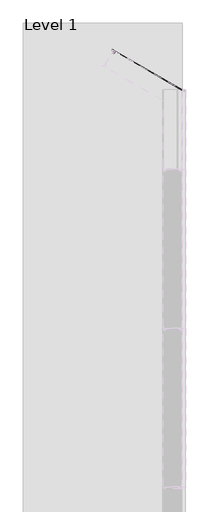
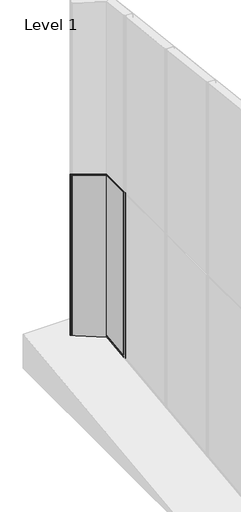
# One storey, part 12 of 16: 1 plate.
"""IFC4 building model written with IfcOpenShell, lengths in millimetres."""

from ifc_helpers import new_model, si_unit, frame, origin, place, context, project, spatial, polyline, circle_curve, ellipse_curve, element, save
from ifc_brep_helpers import plane_surface, cylinder_surface, revolved_surface, advanced_brep

model = new_model("IFC4")

# Units and contexts
model_context = context("Model", 3, world=origin())
ifc_project = project(units=[si_unit("LENGTHUNIT", "METRE", prefix="MILLI")], contexts=[model_context])

# Site, building, storey
site = spatial("IfcSite", under=ifc_project)
building = spatial("IfcBuilding", under=site)
storey = spatial("IfcBuildingStorey", under=building, Name="Level 1", Elevation=0.0)

# Plate
placement = place(None, origin())
element("IfcPlate", 1, ObjectType="TR_C_V_FTV_Corner_Long_B : 120/RAL9006/RAL9002", at=placement, inside=storey, context=model_context, shape_type="AdvancedBrep", body=[
    advanced_brep(
    [(-97.2285384, 7469.8069107, 2980.0), (-101.7094137, 7466.0470099, 2980.0), (-102.4527267, 7461.8314726, 2980.0), (-107.3155057, 7462.2569107, 2980.0), (-107.3155057, 7477.0069107, 2980.0), (-108.2820533, 7479.340363, 2980.0), (-112.6711406, 7483.7294503, 2980.0), (-113.3155057, 7485.2850853, 2980.0), (-113.3155057, 7900.78676, 2980.0), (-114.1155057, 7900.3248798, 2980.0), (-114.1155057, 7485.2850853, 2980.0), (-113.236826, 7483.1637649, 2980.0), (-108.8477387, 7478.7746776, 2980.0), (-108.1155057, 7477.0069107, 2980.0), (-108.1155057, 7462.2569107, 2980.0), (-101.6648805, 7461.6925541, 2980.0), (-100.9215675, 7465.9080913, 2980.0), (-97.2285384, 7469.0069107, 2980.0), (-93.1155057, 7469.0069107, 2980.0), (-93.1155057, 7469.8069107, 2980.0), (-97.2285384, 7469.8069107, 543.0465115), (-101.7094137, 7466.0470099, 542.6093137), (-102.4527267, 7461.8314726, 542.1191349), (-107.3155057, 7462.2569107, 542.1686045), (-107.3155057, 7477.0069107, 543.8837208), (-108.2820533, 7479.340363, 544.1550524), (-112.6711406, 7483.7294503, 544.6654114), (-113.3155057, 7485.2850853, 544.8462992), (-113.3155057, 7900.78676, 593.1604474), (-114.1155057, 7900.3248798, 593.1067404), (-114.1155057, 7485.2850853, 544.8462992), (-113.236826, 7483.1637649, 544.599634), (-108.8477387, 7478.7746776, 544.0892751), (-108.1155057, 7477.0069107, 543.8837208), (-108.1155057, 7462.2569107, 542.1686045), (-101.6648805, 7461.6925541, 542.1029816), (-100.9215675, 7465.9080913, 542.5931604), (-97.2285384, 7469.0069107, 542.9534882), (-93.1155057, 7469.0069107, 542.9534882), (-93.1155057, 7469.8069107, 543.0465115)],
    [
        (0, 1, circle_curve(frame((-97.2285384, 7465.2569107, 2980.0), z_axis=(0.0, 0.0, 1.0), x_axis=(0.0, -1.0, 0.0)), 4.55)),
        (1, 2),
        (2, 3, circle_curve(frame((-104.8655057, 7462.2569107, 2980.0), z_axis=(0.0, 0.0, -1.0), x_axis=(0.0, -1.0, 0.0)), 2.45)),
        (3, 4),
        (4, 5, circle_curve(frame((-110.6155057, 7477.0069107, 2980.0), z_axis=(0.0, 0.0, 1.0), x_axis=(0.0, -1.0, 0.0)), 3.3)),
        (5, 6),
        (6, 7, circle_curve(frame((-111.1155057, 7485.2850853, 2980.0), z_axis=(0.0, 0.0, -1.0), x_axis=(0.0, -1.0, 0.0)), 2.2)),
        (7, 8),
        (8, 9),
        (9, 10),
        (10, 11, circle_curve(frame((-111.1155057, 7485.2850853, 2980.0), z_axis=(0.0, 0.0, 1.0), x_axis=(0.0, -1.0, 0.0)), 3.0)),
        (11, 12),
        (12, 13, circle_curve(frame((-110.6155057, 7477.0069107, 2980.0), z_axis=(0.0, 0.0, -1.0), x_axis=(0.0, -1.0, 0.0)), 2.5)),
        (13, 14),
        (14, 15, circle_curve(frame((-104.8655057, 7462.2569107, 2980.0), z_axis=(0.0, 0.0, 1.0), x_axis=(0.0, -1.0, 0.0)), 3.25)),
        (15, 16),
        (16, 17, circle_curve(frame((-97.2285384, 7465.2569107, 2980.0), z_axis=(0.0, 0.0, -1.0), x_axis=(0.0, -1.0, 0.0)), 3.75)),
        (17, 18),
        (18, 19),
        (19, 0),
        (0, 20),
        (20, 21, ellipse_curve(frame((-97.2285384, 7465.2569107, 542.5174417), z_axis=(0.0, -0.11550085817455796, 0.9933073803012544), x_axis=(0.0, 0.9933073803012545, 0.11550085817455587)), 4.5806566, 4.55)),
        (21, 1),
        (21, 22),
        (22, 2),
        (22, 23, ellipse_curve(frame((-104.8655057, 7462.2569107, 542.1686045), z_axis=(0.0, 0.11550085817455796, -0.9933073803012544), x_axis=(0.0, -0.9933073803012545, -0.11550085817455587)), 2.4665074, 2.45)),
        (23, 3),
        (23, 24),
        (24, 4),
        (24, 25, ellipse_curve(frame((-110.6155057, 7477.0069107, 543.8837208), z_axis=(0.0, -0.11550085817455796, 0.9933073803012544), x_axis=(0.0, 0.9933073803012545, 0.11550085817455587)), 3.3222345, 3.3)),
        (25, 5),
        (25, 26),
        (26, 6),
        (26, 27, ellipse_curve(frame((-111.1155057, 7485.2850853, 544.8462992), z_axis=(0.0, 0.11550085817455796, -0.9933073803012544), x_axis=(0.0, -0.9933073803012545, -0.11550085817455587)), 2.214823, 2.2)),
        (27, 7),
        (27, 28),
        (28, 8),
        (9, 29),
        (29, 30),
        (30, 10),
        (30, 31, ellipse_curve(frame((-111.1155057, 7485.2850853, 544.8462992), z_axis=(0.0, -0.11550085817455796, 0.9933073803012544), x_axis=(0.0, 0.9933073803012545, 0.11550085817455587)), 3.0202131, 3.0)),
        (31, 11),
        (31, 32),
        (32, 12),
        (32, 33, ellipse_curve(frame((-110.6155057, 7477.0069107, 543.8837208), z_axis=(0.0, 0.11550085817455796, -0.9933073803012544), x_axis=(0.0, -0.9933073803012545, -0.11550085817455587)), 2.5168443, 2.5)),
        (33, 13),
        (33, 34),
        (34, 14),
        (34, 35, ellipse_curve(frame((-104.8655057, 7462.2569107, 542.1686045), z_axis=(0.0, -0.11550085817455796, 0.9933073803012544), x_axis=(0.0, 0.9933073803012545, 0.11550085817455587)), 3.2718976, 3.25)),
        (35, 15),
        (35, 36),
        (36, 16),
        (36, 37, ellipse_curve(frame((-97.2285384, 7465.2569107, 542.5174417), z_axis=(0.0, 0.11550085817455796, -0.9933073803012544), x_axis=(0.0, -0.9933073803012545, -0.11550085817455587)), 3.7752664, 3.75)),
        (37, 17),
        (37, 38),
        (38, 18),
        (38, 39),
        (39, 19),
        (39, 20),
        (28, 29),
    ],
    [
        plane_surface(frame((-97.2285384, 7460.7069107, 2980.0), z_axis=(0.0, 0.0, 1.0), x_axis=(1.0, 0.0, 0.0))),
        cylinder_surface(frame((-97.2285384, 7465.2569107, 150.0), z_axis=(0.0, 0.0, 1.0), x_axis=(0.0, -1.0, 0.0)), 4.55),
        plane_surface(frame((-101.7094137, 7466.0470099, 2980.0), z_axis=(-0.9848077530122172, 0.1736481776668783, 0.0), x_axis=(0.0, 0.0, -1.0))),
        revolved_surface(polyline([(-104.8655057, 7459.8069107, 541.8837207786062), (-104.8655057, 7459.8069107, 2980.0)]), (-104.8655057, 7462.2569107, 150.0), (0.0, 0.0, -1.0)),
        plane_surface(frame((-107.3155057, 7462.2569107, 2980.0), z_axis=(1.0, 0.0, 0.0), x_axis=(0.0, 0.0, -1.0))),
        cylinder_surface(frame((-110.6155057, 7477.0069107, 150.0), z_axis=(0.0, 0.0, 1.0), x_axis=(0.0, -1.0, 0.0)), 3.3),
        plane_surface(frame((-108.2820533, 7479.340363, 2980.0), z_axis=(0.7071067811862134, 0.7071067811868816, 0.0), x_axis=(0.0, 0.0, -1.0))),
        revolved_surface(polyline([(-111.1155057, 7483.0850853, 544.5904852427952), (-111.1155057, 7483.0850853, 2980.0)]), (-111.1155057, 7485.2850853, 150.0), (0.0, 0.0, -1.0)),
        plane_surface(frame((-113.3155057, 7485.2850853, 2980.0), z_axis=(1.0, 0.0, 0.0), x_axis=(0.0, 0.0, -1.0))),
        plane_surface(frame((-114.1155057, 7900.3248798, 2980.0), z_axis=(-1.0, 0.0, 0.0), x_axis=(0.0, 0.0, -1.0))),
        cylinder_surface(frame((-111.1155057, 7485.2850853, 150.0), z_axis=(0.0, 0.0, 1.0), x_axis=(0.0, -1.0, 0.0)), 3.0),
        plane_surface(frame((-113.236826, 7483.1637649, 2980.0), z_axis=(-0.7071067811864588, -0.7071067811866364, 0.0), x_axis=(0.0, 0.0, -1.0))),
        revolved_surface(polyline([(-110.6155057, 7474.5069107, 543.5930231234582), (-110.6155057, 7474.5069107, 2980.0)]), (-110.6155057, 7477.0069107, 150.0), (0.0, 0.0, -1.0)),
        plane_surface(frame((-108.1155057, 7477.0069107, 2980.0), z_axis=(-1.0, 0.0, 0.0), x_axis=(0.0, 0.0, -1.0))),
        cylinder_surface(frame((-104.8655057, 7462.2569107, 150.0), z_axis=(0.0, 0.0, 1.0), x_axis=(0.0, -1.0, 0.0)), 3.25),
        plane_surface(frame((-101.6648805, 7461.6925541, 2980.0), z_axis=(0.9848077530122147, -0.17364817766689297, 0.0), x_axis=(0.0, 0.0, -1.0))),
        revolved_surface(polyline([(-97.2285384, 7461.5069107, 542.0813951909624), (-97.2285384, 7461.5069107, 2980.0)]), (-97.2285384, 7465.2569107, 150.0), (0.0, 0.0, -1.0)),
        plane_surface(frame((-97.2285384, 7469.0069107, 2980.0), z_axis=(0.0, -1.0, 0.0), x_axis=(0.0, 0.0, -1.0))),
        plane_surface(frame((-93.1155057, 7469.0069107, 2980.0), z_axis=(1.0, 0.0, 0.0), x_axis=(0.0, 0.0, -1.0))),
        plane_surface(frame((-93.1155057, 7469.8069107, 2980.0), z_axis=(0.0, 1.0, 0.0), x_axis=(0.0, 0.0, -1.0))),
        plane_surface(frame((-113.3155057, 7900.78676, 2980.0), z_axis=(-0.499999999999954, 0.8660254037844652, 0.0), x_axis=(0.0, 0.0, -1.0))),
        plane_surface(frame((5.8844943, 6239.6069121, 400.0), z_axis=(0.0, 0.11550085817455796, -0.9933073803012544), x_axis=(0.0, 0.9933073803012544, 0.11550085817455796))),
    ],
    [
        (0, [[1, 2, 3, 4, 5, 6, 7, 8, 9, 10, 11, 12, 13, 14, 15, 16, 17, 18, 19, 20]]),
        (1, [[-1, 21, 22, 23]]),
        (2, [[-2, -23, 24, 25]]),
        (3, [[-3, -25, 26, 27]]),
        (4, [[-4, -27, 28, 29]]),
        (5, [[-5, -29, 30, 31]]),
        (6, [[-6, -31, 32, 33]]),
        (7, [[-7, -33, 34, 35]]),
        (8, [[-8, -35, 36, 37]]),
        (9, [[-10, 38, 39, 40]]),
        (10, [[-11, -40, 41, 42]]),
        (11, [[-12, -42, 43, 44]]),
        (12, [[-13, -44, 45, 46]]),
        (13, [[-14, -46, 47, 48]]),
        (14, [[-15, -48, 49, 50]]),
        (15, [[-16, -50, 51, 52]]),
        (16, [[-17, -52, 53, 54]]),
        (17, [[-18, -54, 55, 56]]),
        (18, [[-19, -56, 57, 58]]),
        (19, [[-20, -58, 59, -21]]),
        (20, [[-9, -37, 60, -38]]),
        (21, [[-22, -59, -57, -55, -53, -51, -49, -47, -45, -43, -41, -39, -60, -36, -34, -32, -30, -28, -26, -24]]),
    ],
),
    advanced_brep(
    [(-11.0024729, 7469.8069108, 2980.0), (-15.1155057, 7469.8069108, 2980.0), (-15.1155057, 7469.0069108, 2980.0), (-11.0024729, 7469.0069108, 2980.0), (-7.3094438, 7465.9080915, 2980.0), (-6.5661308, 7461.6925542, 2980.0), (-0.1155057, 7462.2569108, 2980.0), (-0.1155057, 7477.0069108, 2980.0), (0.6167274, 7478.7746778, 2980.0), (5.0058147, 7483.1637651, 2980.0), (5.8844943, 7485.2850854, 2980.0), (5.8844943, 7969.606912, 2980.0), (5.0844943, 7969.1450319, 2980.0), (5.0844943, 7485.2850854, 2980.0), (4.4401293, 7483.7294505, 2980.0), (0.051042, 7479.3403632, 2980.0), (-0.9155057, 7477.0069108, 2980.0), (-0.9155057, 7462.2569108, 2980.0), (-5.7782846, 7461.8314728, 2980.0), (-6.5215976, 7466.04701, 2980.0), (-11.0024729, 7469.8069108, 543.0465115), (-15.1155057, 7469.8069108, 543.0465115), (-15.1155057, 7469.0069108, 542.9534882), (-11.0024729, 7469.0069108, 542.9534882), (-7.3094438, 7465.9080915, 542.5931604), (-6.5661308, 7461.6925542, 542.1029816), (-0.1155057, 7462.2569108, 542.1686045), (-0.1155057, 7477.0069108, 543.8837208), (0.6167274, 7478.7746778, 544.0892751), (5.0058147, 7483.1637651, 544.5996341), (5.8844943, 7485.2850854, 544.8462992), (5.8844943, 7969.606912, 601.1627907), (5.0844943, 7969.1450319, 601.1090837), (5.0844943, 7485.2850854, 544.8462992), (4.4401293, 7483.7294505, 544.6654114), (0.051042, 7479.3403632, 544.1550524), (-0.9155057, 7477.0069108, 543.8837208), (-0.9155057, 7462.2569108, 542.1686045), (-5.7782846, 7461.8314728, 542.119135), (-6.5215976, 7466.04701, 542.6093137)],
    [
        (0, 1),
        (1, 2),
        (2, 3),
        (3, 4, circle_curve(frame((-11.0024729, 7465.2569108, 2980.0), z_axis=(0.0, 0.0, -1.0), x_axis=(0.0, -1.0, 0.0)), 3.75)),
        (4, 5),
        (5, 6, circle_curve(frame((-3.3655057, 7462.2569108, 2980.0), z_axis=(0.0, 0.0, 1.0), x_axis=(0.0, -1.0, 0.0)), 3.25)),
        (6, 7),
        (7, 8, circle_curve(frame((2.3844943, 7477.0069108, 2980.0), z_axis=(0.0, 0.0, -1.0), x_axis=(0.0, -1.0, 0.0)), 2.5)),
        (8, 9),
        (9, 10, circle_curve(frame((2.8844943, 7485.2850854, 2980.0), z_axis=(0.0, 0.0, 1.0), x_axis=(0.0, -1.0, 0.0)), 3.0)),
        (10, 11),
        (11, 12),
        (12, 13),
        (13, 14, circle_curve(frame((2.8844943, 7485.2850854, 2980.0), z_axis=(0.0, 0.0, -1.0), x_axis=(0.0, -1.0, 0.0)), 2.2)),
        (14, 15),
        (15, 16, circle_curve(frame((2.3844943, 7477.0069108, 2980.0), z_axis=(0.0, 0.0, 1.0), x_axis=(0.0, -1.0, 0.0)), 3.3)),
        (16, 17),
        (17, 18, circle_curve(frame((-3.3655057, 7462.2569108, 2980.0), z_axis=(0.0, 0.0, -1.0), x_axis=(0.0, -1.0, 0.0)), 2.45)),
        (18, 19),
        (19, 0, circle_curve(frame((-11.0024729, 7465.2569108, 2980.0), z_axis=(0.0, 0.0, 1.0), x_axis=(0.0, -1.0, 0.0)), 4.55)),
        (0, 20),
        (20, 21),
        (21, 1),
        (21, 22),
        (22, 2),
        (22, 23),
        (23, 3),
        (23, 24, ellipse_curve(frame((-11.0024729, 7465.2569108, 542.5174417), z_axis=(0.0, 0.11550085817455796, -0.9933073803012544), x_axis=(0.0, -0.9933073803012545, -0.11550085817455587)), 3.7752664, 3.75)),
        (24, 4),
        (24, 25),
        (25, 5),
        (25, 26, ellipse_curve(frame((-3.3655057, 7462.2569108, 542.1686045), z_axis=(0.0, -0.11550085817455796, 0.9933073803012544), x_axis=(0.0, 0.9933073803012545, 0.11550085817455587)), 3.2718976, 3.25)),
        (26, 6),
        (26, 27),
        (27, 7),
        (27, 28, ellipse_curve(frame((2.3844943, 7477.0069108, 543.8837208), z_axis=(0.0, 0.11550085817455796, -0.9933073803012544), x_axis=(0.0, -0.9933073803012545, -0.11550085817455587)), 2.5168443, 2.5)),
        (28, 8),
        (28, 29),
        (29, 9),
        (29, 30, ellipse_curve(frame((2.8844943, 7485.2850854, 544.8462992), z_axis=(0.0, -0.11550085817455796, 0.9933073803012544), x_axis=(0.0, 0.9933073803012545, 0.11550085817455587)), 3.0202131, 3.0)),
        (30, 10),
        (30, 31),
        (31, 11),
        (31, 32),
        (32, 12),
        (32, 33),
        (33, 13),
        (33, 34, ellipse_curve(frame((2.8844943, 7485.2850854, 544.8462992), z_axis=(0.0, 0.11550085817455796, -0.9933073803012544), x_axis=(0.0, -0.9933073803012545, -0.11550085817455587)), 2.214823, 2.2)),
        (34, 14),
        (34, 35),
        (35, 15),
        (35, 36, ellipse_curve(frame((2.3844943, 7477.0069108, 543.8837208), z_axis=(0.0, -0.11550085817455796, 0.9933073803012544), x_axis=(0.0, 0.9933073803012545, 0.11550085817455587)), 3.3222345, 3.3)),
        (36, 16),
        (36, 37),
        (37, 17),
        (37, 38, ellipse_curve(frame((-3.3655057, 7462.2569108, 542.1686045), z_axis=(0.0, 0.11550085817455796, -0.9933073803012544), x_axis=(0.0, -0.9933073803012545, -0.11550085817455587)), 2.4665074, 2.45)),
        (38, 18),
        (38, 39),
        (39, 19),
        (39, 20, ellipse_curve(frame((-11.0024729, 7465.2569108, 542.5174417), z_axis=(0.0, -0.11550085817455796, 0.9933073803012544), x_axis=(0.0, 0.9933073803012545, 0.11550085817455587)), 4.5806566, 4.55)),
    ],
    [
        plane_surface(frame((-15.1155057, 7469.8069108, 2980.0), z_axis=(0.0, 0.0, 1.0), x_axis=(-1.0, 0.0, 0.0))),
        plane_surface(frame((-11.0024729, 7469.8069108, 2980.0), z_axis=(0.0, 1.0, 0.0), x_axis=(0.0, 0.0, -1.0))),
        plane_surface(frame((-15.1155057, 7469.8069108, 2980.0), z_axis=(-1.0, 0.0, 0.0), x_axis=(0.0, 0.0, -1.0))),
        plane_surface(frame((-15.1155057, 7469.0069108, 2980.0), z_axis=(0.0, -1.0, 0.0), x_axis=(0.0, 0.0, -1.0))),
        revolved_surface(polyline([(-11.0024729, 7461.5069108, 542.0813951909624), (-11.0024729, 7461.5069108, 2980.0)]), (-11.0024729, 7465.2569108, 150.0), (0.0, 0.0, -1.0)),
        plane_surface(frame((-7.3094438, 7465.9080915, 2980.0), z_axis=(-0.9848077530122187, -0.1736481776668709, 0.0), x_axis=(0.0, 0.0, -1.0))),
        cylinder_surface(frame((-3.3655057, 7462.2569108, 150.0), z_axis=(0.0, 0.0, 1.0), x_axis=(0.0, -1.0, 0.0)), 3.25),
        plane_surface(frame((-0.1155057, 7462.2569108, 2980.0), z_axis=(1.0, 0.0, 0.0), x_axis=(0.0, 0.0, -1.0))),
        revolved_surface(polyline([(2.3844943, 7474.5069108, 543.5930231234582), (2.3844943, 7474.5069108, 2980.0)]), (2.3844943, 7477.0069108, 150.0), (0.0, 0.0, -1.0)),
        plane_surface(frame((0.6167274, 7478.7746778, 2980.0), z_axis=(0.707106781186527, -0.7071067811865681, 0.0), x_axis=(0.0, 0.0, -1.0))),
        cylinder_surface(frame((2.8844943, 7485.2850854, 150.0), z_axis=(0.0, 0.0, 1.0), x_axis=(0.0, -1.0, 0.0)), 3.0),
        plane_surface(frame((5.8844943, 7485.2850854, 2980.0), z_axis=(1.0, 0.0, 0.0), x_axis=(0.0, 0.0, -1.0))),
        plane_surface(frame((5.8844943, 7969.606912, 2980.0), z_axis=(-0.4999998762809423, 0.8660254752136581, 0.0), x_axis=(0.0, 0.0, -1.0))),
        plane_surface(frame((5.0844943, 7969.1450319, 2980.0), z_axis=(-1.0, 0.0, 0.0), x_axis=(0.0, 0.0, -1.0))),
        revolved_surface(polyline([(2.8844943, 7483.0850854, 544.5904852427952), (2.8844943, 7483.0850854, 2980.0)]), (2.8844943, 7485.2850854, 150.0), (0.0, 0.0, -1.0)),
        plane_surface(frame((4.4401293, 7483.7294505, 2980.0), z_axis=(-0.7071067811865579, 0.7071067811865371, 0.0), x_axis=(0.0, 0.0, -1.0))),
        cylinder_surface(frame((2.3844943, 7477.0069108, 150.0), z_axis=(0.0, 0.0, 1.0), x_axis=(0.0, -1.0, 0.0)), 3.3),
        plane_surface(frame((-0.9155057, 7477.0069108, 2980.0), z_axis=(-1.0, 0.0, 0.0), x_axis=(0.0, 0.0, -1.0))),
        revolved_surface(polyline([(-3.3655057, 7459.8069108, 541.8837207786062), (-3.3655057, 7459.8069108, 2980.0)]), (-3.3655057, 7462.2569108, 150.0), (0.0, 0.0, -1.0)),
        plane_surface(frame((-5.7782846, 7461.8314728, 2980.0), z_axis=(0.9848077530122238, 0.1736481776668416, 0.0), x_axis=(0.0, 0.0, -1.0))),
        cylinder_surface(frame((-11.0024729, 7465.2569108, 150.0), z_axis=(0.0, 0.0, 1.0), x_axis=(0.0, -1.0, 0.0)), 4.55),
        plane_surface(frame((5.8844943, 6239.6069121, 400.0), z_axis=(0.0, 0.11550085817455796, -0.9933073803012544), x_axis=(0.0, 0.9933073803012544, 0.11550085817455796))),
    ],
    [
        (0, [[1, 2, 3, 4, 5, 6, 7, 8, 9, 10, 11, 12, 13, 14, 15, 16, 17, 18, 19, 20]]),
        (1, [[-1, 21, 22, 23]]),
        (2, [[-2, -23, 24, 25]]),
        (3, [[-3, -25, 26, 27]]),
        (4, [[-4, -27, 28, 29]]),
        (5, [[-5, -29, 30, 31]]),
        (6, [[-6, -31, 32, 33]]),
        (7, [[-7, -33, 34, 35]]),
        (8, [[-8, -35, 36, 37]]),
        (9, [[-9, -37, 38, 39]]),
        (10, [[-10, -39, 40, 41]]),
        (11, [[-11, -41, 42, 43]]),
        (12, [[-12, -43, 44, 45]]),
        (13, [[-13, -45, 46, 47]]),
        (14, [[-14, -47, 48, 49]]),
        (15, [[-15, -49, 50, 51]]),
        (16, [[-16, -51, 52, 53]]),
        (17, [[-17, -53, 54, 55]]),
        (18, [[-18, -55, 56, 57]]),
        (19, [[-19, -57, 58, 59]]),
        (20, [[-20, -59, 60, -21]]),
        (21, [[-22, -60, -58, -56, -54, -52, -50, -48, -46, -44, -42, -40, -38, -36, -34, -32, -30, -28, -26, -24]]),
    ],
),
    advanced_brep(
    [(-434.5462864, 8203.5584202, 2980.0), (-436.2425659, 8200.6203781, 2980.0), (-435.5497456, 8200.2203781, 2980.0), (-433.8534661, 8203.1584202, 2980.0), (-430.2897318, 8204.4555135, 2980.0), (-424.5166343, 8202.3542778, 2980.0), (-420.9380487, 8210.0285794, 2980.0), (-436.1800958, 8218.8285794, 2980.0), (-435.9027377, 8220.9353234, 2980.0), (-433.354164, 8221.6182116, 2980.0), (-431.8744669, 8221.4234058, 2980.0), (5.0844943, 7969.1450319, 2980.0), (5.8844945, 7969.6069121, 2980.0), (-431.4744669, 8222.1162261, 2980.0), (-433.5612192, 8222.3909523, 2980.0), (-436.1097929, 8221.708064, 2980.0), (-436.5800958, 8218.1357591, 2980.0), (-421.3380487, 8209.3357591, 2980.0), (-424.2430182, 8203.1060319, 2980.0), (-430.0161156, 8205.2072676, 2980.0), (-434.5462864, 8203.5584202, 628.3664544), (-436.2425659, 8200.6203781, 628.0248216), (-435.5497456, 8200.2203781, 627.97831), (-433.8534661, 8203.1584202, 628.3199428), (-430.2897318, 8204.4555135, 628.4707676), (-424.5166343, 8202.3542778, 628.2264379), (-420.9380487, 8210.0285794, 629.1187985), (-436.1800958, 8218.8285794, 630.1420543), (-435.9027377, 8220.9353234, 630.3870246), (-433.354164, 8221.6182116, 630.4664302), (-431.8744669, 8221.4234058, 630.4437783), (5.0844943, 7969.1450319, 601.1090837), (5.8844945, 7969.6069121, 601.1627907), (-431.4744669, 8222.1162261, 630.5243388), (-433.5612192, 8222.3909523, 630.5562837), (-436.1097929, 8221.708064, 630.4768781), (-436.5800958, 8218.1357591, 630.0614938), (-421.3380487, 8209.3357591, 629.038238), (-424.2430182, 8203.1060319, 628.3138511), (-430.0161156, 8205.2072676, 628.5581809)],
    [
        (0, 1),
        (1, 2),
        (2, 3),
        (3, 4, circle_curve(frame((-431.2986912, 8201.6834202, 2980.0), z_axis=(0.0, 0.0, -1.0), x_axis=(-0.8660254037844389, 0.4999999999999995, 0.0)), 2.95)),
        (4, 5),
        (5, 6, circle_curve(frame((-423.0630487, 8206.3479715, 2980.0), z_axis=(0.0, 0.0, 1.0), x_axis=(-0.8660254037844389, 0.4999999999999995, 0.0)), 4.25)),
        (6, 7),
        (7, 8, circle_curve(frame((-435.6050958, 8219.8245087, 2980.0), z_axis=(0.0, 0.0, -1.0), x_axis=(-0.8660254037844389, 0.4999999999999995, 0.0)), 1.15)),
        (8, 9),
        (9, 10, circle_curve(frame((-432.8494669, 8219.7346563, 2980.0), z_axis=(0.0, 0.0, -1.0), x_axis=(-0.8660254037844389, 0.4999999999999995, 0.0)), 1.95)),
        (10, 11),
        (11, 12),
        (12, 13),
        (13, 14, circle_curve(frame((-432.8494669, 8219.7346563, 2980.0), z_axis=(0.0, 0.0, 1.0), x_axis=(-0.8660254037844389, 0.4999999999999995, 0.0)), 2.75)),
        (14, 15),
        (15, 16, circle_curve(frame((-435.6050958, 8219.8245087, 2980.0), z_axis=(0.0, 0.0, 1.0), x_axis=(-0.8660254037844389, 0.4999999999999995, 0.0)), 1.95)),
        (16, 17),
        (17, 18, circle_curve(frame((-423.0630487, 8206.3479715, 2980.0), z_axis=(0.0, 0.0, -1.0), x_axis=(-0.8660254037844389, 0.4999999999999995, 0.0)), 3.45)),
        (18, 19),
        (19, 0, circle_curve(frame((-431.2986912, 8201.6834202, 2980.0), z_axis=(0.0, 0.0, 1.0), x_axis=(-0.8660254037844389, 0.4999999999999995, 0.0)), 3.75)),
        (0, 20),
        (20, 21),
        (21, 1),
        (21, 22),
        (22, 2),
        (22, 23),
        (23, 3),
        (23, 24, ellipse_curve(frame((-431.2986912, 8201.6834202, 628.1484312), z_axis=(0.0, 0.11550085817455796, -0.9933073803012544), x_axis=(0.0, -0.9933073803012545, -0.11550085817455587)), 2.9698763, 2.95)),
        (24, 4),
        (24, 25),
        (25, 5),
        (25, 26, ellipse_curve(frame((-423.0630487, 8206.3479715, 628.6908209), z_axis=(0.0, -0.11550085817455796, 0.9933073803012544), x_axis=(0.0, 0.9933073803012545, 0.11550085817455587)), 4.2786353, 4.25)),
        (26, 6),
        (26, 27),
        (27, 7),
        (27, 28, ellipse_curve(frame((-435.6050958, 8219.8245087, 630.2578601), z_axis=(0.0, 0.11550085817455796, -0.9933073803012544), x_axis=(0.0, -0.9933073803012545, -0.11550085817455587)), 1.1577484, 1.15)),
        (28, 8),
        (28, 29),
        (29, 9),
        (29, 30, ellipse_curve(frame((-432.8494669, 8219.7346563, 630.2474121), z_axis=(0.0, 0.11550085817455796, -0.9933073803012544), x_axis=(0.0, -0.9933073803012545, -0.11550085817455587)), 1.9631385, 1.95)),
        (30, 10),
        (30, 31),
        (31, 11),
        (31, 32),
        (32, 12),
        (32, 33),
        (33, 13),
        (33, 34, ellipse_curve(frame((-432.8494669, 8219.7346563, 630.2474121), z_axis=(0.0, -0.11550085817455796, 0.9933073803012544), x_axis=(0.0, 0.9933073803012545, 0.11550085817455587)), 2.7685287, 2.75)),
        (34, 14),
        (34, 35),
        (35, 15),
        (35, 36, ellipse_curve(frame((-435.6050958, 8219.8245087, 630.2578601), z_axis=(0.0, -0.11550085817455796, 0.9933073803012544), x_axis=(0.0, 0.9933073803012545, 0.11550085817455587)), 1.9631385, 1.95)),
        (36, 16),
        (36, 37),
        (37, 17),
        (37, 38, ellipse_curve(frame((-423.0630487, 8206.3479715, 628.6908209), z_axis=(0.0, 0.11550085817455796, -0.9933073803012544), x_axis=(0.0, -0.9933073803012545, -0.11550085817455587)), 3.4732451, 3.45)),
        (38, 18),
        (38, 39),
        (39, 19),
        (39, 20, ellipse_curve(frame((-431.2986912, 8201.6834202, 628.1484312), z_axis=(0.0, -0.11550085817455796, 0.9933073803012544), x_axis=(0.0, 0.9933073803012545, 0.11550085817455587)), 3.7752664, 3.75)),
    ],
    [
        plane_surface(frame((-436.2425659, 8200.6203781, 2980.0), z_axis=(0.0, 0.0, 1.0), x_axis=(-0.5000000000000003, -0.8660254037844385, 0.0))),
        plane_surface(frame((-434.5462864, 8203.5584202, 2980.0), z_axis=(-0.8660254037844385, 0.5000000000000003, 0.0), x_axis=(0.0, 0.0, -1.0))),
        plane_surface(frame((-436.2425659, 8200.6203781, 2980.0), z_axis=(-0.4999999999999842, -0.8660254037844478, 0.0), x_axis=(0.0, 0.0, -1.0))),
        plane_surface(frame((-435.5497456, 8200.2203781, 2980.0), z_axis=(0.8660254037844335, -0.500000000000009, 0.0), x_axis=(0.0, 0.0, -1.0))),
        revolved_surface(polyline([(-433.8534661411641, 8203.1584202, 627.8054079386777), (-433.8534661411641, 8203.1584202, 2980.0)]), (-431.2986912, 8201.6834202, 150.0), (0.0, 0.0, -1.0)),
        plane_surface(frame((-430.2897318, 8204.4555135, 2980.0), z_axis=(-0.342020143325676, -0.9396926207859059, 0.0), x_axis=(0.0, 0.0, -1.0))),
        cylinder_surface(frame((-423.0630487, 8206.3479715, 150.0), z_axis=(0.0, 0.0, 1.0), x_axis=(-0.8660254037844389, 0.4999999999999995, 0.0)), 4.25),
        plane_surface(frame((-420.9380487, 8210.0285794, 2980.0), z_axis=(0.4999999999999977, 0.86602540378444, 0.0), x_axis=(0.0, 0.0, -1.0))),
        revolved_surface(polyline([(-436.6010250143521, 8220.3995087, 630.1241391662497), (-436.6010250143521, 8220.3995087, 2980.0)]), (-435.6050958, 8219.8245087, 150.0), (0.0, 0.0, -1.0)),
        plane_surface(frame((-435.9027377, 8220.9353234, 2980.0), z_axis=(0.2588190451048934, -0.9659258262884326, 0.0), x_axis=(0.0, 0.0, -1.0))),
        revolved_surface(polyline([(-434.5382164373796, 8220.7096563, 630.0206679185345), (-434.5382164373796, 8220.7096563, 2980.0)]), (-432.8494669, 8219.7346563, 150.0), (0.0, 0.0, -1.0)),
        plane_surface(frame((-431.8744669, 8221.4234058, 2980.0), z_axis=(-0.4999999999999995, -0.8660254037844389, 0.0), x_axis=(0.0, 0.0, -1.0))),
        plane_surface(frame((5.0844943, 7969.1450319, 2980.0), z_axis=(0.4999998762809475, -0.8660254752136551, 0.0), x_axis=(0.0, 0.0, -1.0))),
        plane_surface(frame((5.8844945, 7969.6069121, 2980.0), z_axis=(0.5000000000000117, 0.866025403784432, 0.0), x_axis=(0.0, 0.0, -1.0))),
        cylinder_surface(frame((-432.8494669, 8219.7346563, 150.0), z_axis=(0.0, 0.0, 1.0), x_axis=(-0.8660254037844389, 0.4999999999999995, 0.0)), 2.75),
        plane_surface(frame((-433.5612192, 8222.3909523, 2980.0), z_axis=(-0.25881904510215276, 0.965925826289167, 0.0), x_axis=(0.0, 0.0, -1.0))),
        cylinder_surface(frame((-435.6050958, 8219.8245087, 150.0), z_axis=(0.0, 0.0, 1.0), x_axis=(-0.8660254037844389, 0.4999999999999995, 0.0)), 1.95),
        plane_surface(frame((-436.5800958, 8218.1357591, 2980.0), z_axis=(-0.5000000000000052, -0.8660254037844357, 0.0), x_axis=(0.0, 0.0, -1.0))),
        revolved_surface(polyline([(-426.05083634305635, 8208.0729715, 628.2896581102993), (-426.05083634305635, 8208.0729715, 2980.0)]), (-423.0630487, 8206.3479715, 150.0), (0.0, 0.0, -1.0)),
        plane_surface(frame((-424.2430182, 8203.1060319, 2980.0), z_axis=(0.34202014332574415, 0.939692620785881, 0.0), x_axis=(0.0, 0.0, -1.0))),
        cylinder_surface(frame((-431.2986912, 8201.6834202, 150.0), z_axis=(0.0, 0.0, 1.0), x_axis=(-0.8660254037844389, 0.4999999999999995, 0.0)), 3.75),
        plane_surface(frame((5.8844943, 6239.6069121, 400.0), z_axis=(0.0, 0.11550085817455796, -0.9933073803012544), x_axis=(0.0, 0.9933073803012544, 0.11550085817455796))),
    ],
    [
        (0, [[1, 2, 3, 4, 5, 6, 7, 8, 9, 10, 11, 12, 13, 14, 15, 16, 17, 18, 19, 20]]),
        (1, [[-1, 21, 22, 23]]),
        (2, [[-2, -23, 24, 25]]),
        (3, [[-3, -25, 26, 27]]),
        (4, [[-4, -27, 28, 29]]),
        (5, [[-5, -29, 30, 31]]),
        (6, [[-6, -31, 32, 33]]),
        (7, [[-7, -33, 34, 35]]),
        (8, [[-8, -35, 36, 37]]),
        (9, [[-9, -37, 38, 39]]),
        (10, [[-10, -39, 40, 41]]),
        (11, [[-11, -41, 42, 43]]),
        (12, [[-12, -43, 44, 45]]),
        (13, [[-13, -45, 46, 47]]),
        (14, [[-14, -47, 48, 49]]),
        (15, [[-15, -49, 50, 51]]),
        (16, [[-16, -51, 52, 53]]),
        (17, [[-17, -53, 54, 55]]),
        (18, [[-18, -55, 56, 57]]),
        (19, [[-19, -57, 58, 59]]),
        (20, [[-20, -59, 60, -21]]),
        (21, [[-22, -60, -58, -56, -54, -52, -50, -48, -46, -44, -42, -40, -38, -36, -34, -32, -30, -28, -26, -24]]),
    ],
),
    advanced_brep(
    [(-476.9388453, 8130.1323544, 2980.0), (-476.1017036, 8125.3846877, 2980.0), (-471.3954314, 8121.4356565, 2980.0), (-475.3380487, 8115.8050155, 2980.0), (-490.5800958, 8124.6050155, 2980.0), (-493.4386512, 8122.4115688, 2980.0), (-492.7557629, 8119.8629952, 2980.0), (-491.4744669, 8118.1931777, 2980.0), (-114.1155057, 7900.3248798, 2980.0), (-113.3155057, 7900.78676, 2980.0), (-491.0744669, 8118.885998, 2980.0), (-491.9830222, 8120.0700504, 2980.0), (-492.6659105, 8122.6186241, 2980.0), (-490.9800958, 8123.9121952, 2980.0), (-475.7380487, 8115.1121952, 2980.0), (-470.8812013, 8122.048492, 2980.0), (-475.5874735, 8125.9975233, 2980.0), (-476.246025, 8129.7323544, 2980.0), (-474.5497456, 8132.6703966, 2980.0), (-475.2425659, 8133.0703966, 2980.0), (-476.9388453, 8130.1323544, 619.8285398), (-476.1017036, 8125.3846877, 619.2764855), (-471.3954314, 8121.4356565, 618.8172959), (-475.3380487, 8115.8050155, 618.1625702), (-490.5800958, 8124.6050155, 619.185826), (-493.4386512, 8122.4115688, 618.930774), (-492.7557629, 8119.8629952, 618.6344283), (-491.4744669, 8118.1931777, 618.4402634), (-114.1155057, 7900.3248798, 593.1067404), (-113.3155057, 7900.78676, 593.1604474), (-491.0744669, 8118.885998, 618.5208239), (-491.9830222, 8120.0700504, 618.6585044), (-492.6659105, 8122.6186241, 618.9548502), (-490.9800958, 8123.9121952, 619.1052655), (-475.7380487, 8115.1121952, 618.0820097), (-470.8812013, 8122.048492, 618.8885558), (-475.5874735, 8125.9975233, 619.3477455), (-476.246025, 8129.7323544, 619.7820282), (-474.5497456, 8132.6703966, 620.123661), (-475.2425659, 8133.0703966, 620.1701726)],
    [
        (0, 1, circle_curve(frame((-473.6912501, 8128.2573544, 2980.0), z_axis=(0.0, 0.0, 1.0), x_axis=(-0.8660254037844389, 0.49999999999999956, 0.0)), 3.75)),
        (1, 2),
        (2, 3, circle_curve(frame((-473.6130487, 8118.7928032, 2980.0), z_axis=(0.0, 0.0, -1.0), x_axis=(-0.8660254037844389, 0.49999999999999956, 0.0)), 3.45)),
        (3, 4),
        (4, 5, circle_curve(frame((-491.5550958, 8122.916266, 2980.0), z_axis=(0.0, 0.0, 1.0), x_axis=(-0.8660254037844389, 0.49999999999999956, 0.0)), 1.95)),
        (5, 6),
        (6, 7, circle_curve(frame((-490.0994669, 8120.5747475, 2980.0), z_axis=(0.0, 0.0, 1.0), x_axis=(-0.8660254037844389, 0.49999999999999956, 0.0)), 2.75)),
        (7, 8),
        (8, 9),
        (9, 10),
        (10, 11, circle_curve(frame((-490.0994669, 8120.5747475, 2980.0), z_axis=(0.0, 0.0, -1.0), x_axis=(-0.8660254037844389, 0.49999999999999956, 0.0)), 1.95)),
        (11, 12),
        (12, 13, circle_curve(frame((-491.5550958, 8122.916266, 2980.0), z_axis=(0.0, 0.0, -1.0), x_axis=(-0.8660254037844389, 0.49999999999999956, 0.0)), 1.15)),
        (13, 14),
        (14, 15, circle_curve(frame((-473.6130487, 8118.7928032, 2980.0), z_axis=(0.0, 0.0, 1.0), x_axis=(-0.8660254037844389, 0.49999999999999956, 0.0)), 4.25)),
        (15, 16),
        (16, 17, circle_curve(frame((-473.6912501, 8128.2573544, 2980.0), z_axis=(0.0, 0.0, -1.0), x_axis=(-0.8660254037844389, 0.49999999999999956, 0.0)), 2.95)),
        (17, 18),
        (18, 19),
        (19, 0),
        (0, 20),
        (20, 21, ellipse_curve(frame((-473.6912501, 8128.2573544, 619.6105165), z_axis=(0.0, -0.11550085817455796, 0.9933073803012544), x_axis=(0.0, 0.9933073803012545, 0.11550085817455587)), 3.7752664, 3.75)),
        (21, 1),
        (21, 22),
        (22, 2),
        (22, 23, ellipse_curve(frame((-473.6130487, 8118.7928032, 618.5099873), z_axis=(0.0, 0.11550085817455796, -0.9933073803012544), x_axis=(0.0, -0.9933073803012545, -0.11550085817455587)), 3.4732451, 3.45)),
        (23, 3),
        (23, 24),
        (24, 4),
        (24, 25, ellipse_curve(frame((-491.5550958, 8122.916266, 618.9894597), z_axis=(0.0, -0.11550085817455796, 0.9933073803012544), x_axis=(0.0, 0.9933073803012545, 0.11550085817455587)), 1.9631385, 1.95)),
        (25, 5),
        (25, 26),
        (26, 6),
        (26, 27, ellipse_curve(frame((-490.0994669, 8120.5747475, 618.7171902), z_axis=(0.0, -0.11550085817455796, 0.9933073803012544), x_axis=(0.0, 0.9933073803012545, 0.11550085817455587)), 2.7685287, 2.75)),
        (27, 7),
        (27, 28),
        (28, 8),
        (28, 29),
        (29, 9),
        (29, 30),
        (30, 10),
        (30, 31, ellipse_curve(frame((-490.0994669, 8120.5747475, 618.7171902), z_axis=(0.0, 0.11550085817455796, -0.9933073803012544), x_axis=(0.0, -0.9933073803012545, -0.11550085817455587)), 1.9631385, 1.95)),
        (31, 11),
        (31, 32),
        (32, 12),
        (32, 33, ellipse_curve(frame((-491.5550958, 8122.916266, 618.9894597), z_axis=(0.0, 0.11550085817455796, -0.9933073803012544), x_axis=(0.0, -0.9933073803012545, -0.11550085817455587)), 1.1577484, 1.15)),
        (33, 13),
        (33, 34),
        (34, 14),
        (34, 35, ellipse_curve(frame((-473.6130487, 8118.7928032, 618.5099873), z_axis=(0.0, -0.11550085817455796, 0.9933073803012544), x_axis=(0.0, 0.9933073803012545, 0.11550085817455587)), 4.2786353, 4.25)),
        (35, 15),
        (35, 36),
        (36, 16),
        (36, 37, ellipse_curve(frame((-473.6912501, 8128.2573544, 619.6105165), z_axis=(0.0, 0.11550085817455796, -0.9933073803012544), x_axis=(0.0, -0.9933073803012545, -0.11550085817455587)), 2.9698763, 2.95)),
        (37, 17),
        (37, 38),
        (38, 18),
        (38, 39),
        (39, 19),
        (39, 20),
    ],
    [
        plane_surface(frame((-476.9388453, 8130.1323544, 2980.0), z_axis=(0.0, 0.0, 1.0), x_axis=(-0.49999999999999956, -0.8660254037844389, 0.0))),
        cylinder_surface(frame((-473.6912501, 8128.2573544, 150.0), z_axis=(0.0, 0.0, 1.0), x_axis=(-0.8660254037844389, 0.49999999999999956, 0.0)), 3.75),
        plane_surface(frame((-476.1017036, 8125.3846877, 2980.0), z_axis=(-0.6427876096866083, -0.7660444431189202, 0.0), x_axis=(0.0, 0.0, -1.0))),
        revolved_surface(polyline([(-476.6008363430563, 8120.5178032, 618.1088245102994), (-476.6008363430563, 8120.5178032, 2980.0)]), (-473.6130487, 8118.7928032, 150.0), (0.0, 0.0, -1.0)),
        plane_surface(frame((-475.3380487, 8115.8050155, 2980.0), z_axis=(0.5000000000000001, 0.8660254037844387, 0.0), x_axis=(0.0, 0.0, -1.0))),
        cylinder_surface(frame((-491.5550958, 8122.916266, 150.0), z_axis=(0.0, 0.0, 1.0), x_axis=(-0.8660254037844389, 0.49999999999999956, 0.0)), 1.95),
        plane_surface(frame((-493.4386512, 8122.4115688, 2980.0), z_axis=(-0.9659258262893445, -0.2588190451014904, 0.0), x_axis=(0.0, 0.0, -1.0))),
        cylinder_surface(frame((-490.0994669, 8120.5747475, 150.0), z_axis=(0.0, 0.0, 1.0), x_axis=(-0.8660254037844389, 0.49999999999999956, 0.0)), 2.75),
        plane_surface(frame((-491.4744669, 8118.1931777, 2980.0), z_axis=(-0.5000000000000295, -0.8660254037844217, 0.0), x_axis=(0.0, 0.0, -1.0))),
        plane_surface(frame((-114.1155057, 7900.3248798, 2980.0), z_axis=(0.49999999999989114, -0.8660254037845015, 0.0), x_axis=(0.0, 0.0, -1.0))),
        plane_surface(frame((-113.3155057, 7900.78676, 2980.0), z_axis=(0.4999999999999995, 0.8660254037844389, 0.0), x_axis=(0.0, 0.0, -1.0))),
        revolved_surface(polyline([(-491.7882164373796, 8121.5497475, 618.4904460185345), (-491.7882164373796, 8121.5497475, 2980.0)]), (-490.0994669, 8120.5747475, 150.0), (0.0, 0.0, -1.0)),
        plane_surface(frame((-491.9830222, 8120.0700504, 2980.0), z_axis=(0.9659258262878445, 0.2588190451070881, 0.0), x_axis=(0.0, 0.0, -1.0))),
        revolved_surface(polyline([(-492.5510250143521, 8123.491266, 618.8557387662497), (-492.5510250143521, 8123.491266, 2980.0)]), (-491.5550958, 8122.916266, 150.0), (0.0, 0.0, -1.0)),
        plane_surface(frame((-490.9800958, 8123.9121952, 2980.0), z_axis=(-0.4999999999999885, -0.8660254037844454, 0.0), x_axis=(0.0, 0.0, -1.0))),
        cylinder_surface(frame((-473.6130487, 8118.7928032, 150.0), z_axis=(0.0, 0.0, 1.0), x_axis=(-0.8660254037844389, 0.49999999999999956, 0.0)), 4.25),
        plane_surface(frame((-470.8812013, 8122.048492, 2980.0), z_axis=(0.6427876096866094, 0.7660444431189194, 0.0), x_axis=(0.0, 0.0, -1.0))),
        revolved_surface(polyline([(-476.2460250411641, 8129.7323544, 619.2674932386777), (-476.2460250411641, 8129.7323544, 2980.0)]), (-473.6912501, 8128.2573544, 150.0), (0.0, 0.0, -1.0)),
        plane_surface(frame((-476.246025, 8129.7323544, 2980.0), z_axis=(0.8660254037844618, -0.4999999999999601, 0.0), x_axis=(0.0, 0.0, -1.0))),
        plane_surface(frame((-474.5497456, 8132.6703966, 2980.0), z_axis=(0.5000000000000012, 0.866025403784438, 0.0), x_axis=(0.0, 0.0, -1.0))),
        plane_surface(frame((-475.2425659, 8133.0703966, 2980.0), z_axis=(-0.8660254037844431, 0.49999999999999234, 0.0), x_axis=(0.0, 0.0, -1.0))),
        plane_surface(frame((5.8844943, 6239.6069121, 400.0), z_axis=(0.0, 0.11550085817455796, -0.9933073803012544), x_axis=(0.0, 0.9933073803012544, 0.11550085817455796))),
    ],
    [
        (0, [[1, 2, 3, 4, 5, 6, 7, 8, 9, 10, 11, 12, 13, 14, 15, 16, 17, 18, 19, 20]]),
        (1, [[-1, 21, 22, 23]]),
        (2, [[-2, -23, 24, 25]]),
        (3, [[-3, -25, 26, 27]]),
        (4, [[-4, -27, 28, 29]]),
        (5, [[-5, -29, 30, 31]]),
        (6, [[-6, -31, 32, 33]]),
        (7, [[-7, -33, 34, 35]]),
        (8, [[-8, -35, 36, 37]]),
        (9, [[-9, -37, 38, 39]]),
        (10, [[-10, -39, 40, 41]]),
        (11, [[-11, -41, 42, 43]]),
        (12, [[-12, -43, 44, 45]]),
        (13, [[-13, -45, 46, 47]]),
        (14, [[-14, -47, 48, 49]]),
        (15, [[-15, -49, 50, 51]]),
        (16, [[-16, -51, 52, 53]]),
        (17, [[-17, -53, 54, 55]]),
        (18, [[-18, -55, 56, 57]]),
        (19, [[-19, -57, 58, 59]]),
        (20, [[-20, -59, 60, -21]]),
        (21, [[-22, -60, -58, -56, -54, -52, -50, -48, -46, -44, -42, -40, -38, -36, -34, -32, -30, -28, -26, -24]]),
    ],
),
    advanced_brep(
    [(-0.9155057, 7469.6069117, 2980.0), (-0.9155057, 7477.0069108, 2980.0), (0.051042, 7479.3403632, 2980.0), (4.4401293, 7483.7294505, 2980.0), (5.0844943, 7485.2850854, 2980.0), (5.0844943, 7969.1450319, 2980.0), (-113.3155057, 7900.78676, 2980.0), (-113.3155057, 7485.2850854, 2980.0), (-112.6711406, 7483.7294505, 2980.0), (-108.2820533, 7479.3403632, 2980.0), (-107.3155057, 7477.0069108, 2980.0), (-107.3155057, 7469.6069117, 2980.0), (-0.9155057, 7469.6069117, 543.0232558), (-0.9155057, 7477.0069108, 543.8837208), (0.051042, 7479.3403632, 544.1550524), (4.4401293, 7483.7294505, 544.6654114), (5.0844943, 7485.2850854, 544.8462992), (5.0844943, 7969.1450319, 601.1090837), (-113.3155057, 7900.78676, 593.1604474), (-113.3155057, 7485.2850854, 544.8462992), (-107.3155057, 7469.6069117, 543.0232558), (-112.6711406, 7483.7294505, 544.6654114), (-108.2820533, 7479.3403632, 544.1550524), (-107.3155057, 7477.0069108, 543.8837208)],
    [
        (0, 1),
        (1, 2, circle_curve(frame((2.3844943, 7477.0069108, 2980.0), z_axis=(0.0, 0.0, -1.0), x_axis=(0.0, -1.0, 0.0)), 3.3)),
        (2, 3),
        (3, 4, circle_curve(frame((2.8844943, 7485.2850854, 2980.0), z_axis=(0.0, 0.0, 1.0), x_axis=(0.0, -1.0, 0.0)), 2.2)),
        (4, 5),
        (5, 6),
        (6, 7),
        (7, 8, circle_curve(frame((-111.1155057, 7485.2850854, 2980.0), z_axis=(0.0, 0.0, 1.0), x_axis=(0.0, -1.0, 0.0)), 2.2)),
        (8, 9),
        (9, 10, circle_curve(frame((-110.6155057, 7477.0069108, 2980.0), z_axis=(0.0, 0.0, -1.0), x_axis=(0.0, -1.0, 0.0)), 3.3)),
        (10, 11),
        (11, 0),
        (0, 12),
        (12, 13),
        (13, 1),
        (13, 14, ellipse_curve(frame((2.3844943, 7477.0069108, 543.8837208), z_axis=(0.0, 0.11550085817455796, -0.9933073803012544), x_axis=(0.0, -0.9933073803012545, -0.11550085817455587)), 3.3222345, 3.3)),
        (14, 2),
        (14, 15),
        (15, 3),
        (15, 16, ellipse_curve(frame((2.8844943, 7485.2850854, 544.8462992), z_axis=(0.0, -0.11550085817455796, 0.9933073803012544), x_axis=(0.0, 0.9933073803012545, 0.11550085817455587)), 2.214823, 2.2)),
        (16, 4),
        (16, 17),
        (17, 5),
        (17, 18),
        (18, 6),
        (18, 19),
        (19, 7),
        (11, 20),
        (20, 12),
        (19, 21, ellipse_curve(frame((-111.1155057, 7485.2850854, 544.8462992), z_axis=(0.0, -0.11550085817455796, 0.9933073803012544), x_axis=(0.0, 0.9933073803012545, 0.11550085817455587)), 2.214823, 2.2)),
        (21, 8),
        (21, 22),
        (22, 9),
        (22, 23, ellipse_curve(frame((-110.6155057, 7477.0069108, 543.8837208), z_axis=(0.0, 0.11550085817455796, -0.9933073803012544), x_axis=(0.0, -0.9933073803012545, -0.11550085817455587)), 3.3222345, 3.3)),
        (23, 10),
        (23, 20),
    ],
    [
        plane_surface(frame((-0.9155057, 7469.6069117, 2980.0), z_axis=(0.0, 0.0, 1.0), x_axis=(0.0, 1.0, 0.0))),
        plane_surface(frame((-0.9155057, 7469.6069117, 2980.0), z_axis=(1.0, 0.0, 0.0), x_axis=(0.0, 0.0, -1.0))),
        revolved_surface(polyline([(2.3844943, 7473.7069108, 543.4999998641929), (2.3844943, 7473.7069108, 2980.0)]), (2.3844943, 7477.0069108, 150.0), (0.0, 0.0, -1.0)),
        plane_surface(frame((0.051042, 7479.3403632, 2980.0), z_axis=(0.7071067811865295, -0.7071067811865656, 0.0), x_axis=(0.0, 0.0, -1.0))),
        cylinder_surface(frame((2.8844943, 7485.2850854, 150.0), z_axis=(0.0, 0.0, 1.0), x_axis=(0.0, -1.0, 0.0)), 2.2),
        plane_surface(frame((5.0844943, 7485.2850854, 2980.0), z_axis=(1.0, 0.0, 0.0), x_axis=(0.0, 0.0, -1.0))),
        plane_surface(frame((5.0844943, 7969.1450319, 2980.0), z_axis=(-0.4999999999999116, 0.8660254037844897, 0.0), x_axis=(0.0, 0.0, -1.0))),
        plane_surface(frame((-113.3155057, 7900.78676, 2980.0), z_axis=(-1.0, 0.0, 0.0), x_axis=(0.0, 0.0, -1.0))),
        plane_surface(frame((-107.3155057, 7469.6069117, 2980.0), z_axis=(0.0, -1.0, 0.0), x_axis=(0.0, 0.0, -1.0))),
        cylinder_surface(frame((-111.1155057, 7485.2850854, 150.0), z_axis=(0.0, 0.0, 1.0), x_axis=(0.0, -1.0, 0.0)), 2.2),
        plane_surface(frame((-112.6711406, 7483.7294505, 2980.0), z_axis=(-0.7071067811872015, -0.7071067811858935, 0.0), x_axis=(0.0, 0.0, -1.0))),
        revolved_surface(polyline([(-110.6155057, 7473.7069108, 543.4999998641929), (-110.6155057, 7473.7069108, 2980.0)]), (-110.6155057, 7477.0069108, 150.0), (0.0, 0.0, -1.0)),
        plane_surface(frame((-107.3155057, 7477.0069108, 2980.0), z_axis=(-1.0, 0.0, 0.0), x_axis=(0.0, 0.0, -1.0))),
        plane_surface(frame((5.8844943, 6239.6069121, 400.0), z_axis=(0.0, 0.11550085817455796, -0.9933073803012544), x_axis=(0.0, 0.9933073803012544, 0.11550085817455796))),
    ],
    [
        (0, [[1, 2, 3, 4, 5, 6, 7, 8, 9, 10, 11, 12]]),
        (1, [[-1, 13, 14, 15]]),
        (2, [[-2, -15, 16, 17]]),
        (3, [[-3, -17, 18, 19]]),
        (4, [[-4, -19, 20, 21]]),
        (5, [[-5, -21, 22, 23]]),
        (6, [[-6, -23, 24, 25]]),
        (7, [[-7, -25, 26, 27]]),
        (8, [[-12, 28, 29, -13]]),
        (9, [[-8, -27, 30, 31]]),
        (10, [[-9, -31, 32, 33]]),
        (11, [[-10, -33, 34, 35]]),
        (12, [[-11, -35, 36, -28]]),
        (13, [[-14, -29, -36, -34, -32, -30, -26, -24, -22, -20, -18, -16]]),
    ],
),
    advanced_brep(
    [(5.0844943, 7969.1450319, 2980.0), (-415.0574407, 8211.7140912, 2980.0), (-419.3824407, 8204.2229715, 2980.0), (-424.5166343, 8202.3542778, 2980.0), (-430.2897318, 8204.4555135, 2980.0), (-433.8534661, 8203.1584202, 2980.0), (-436.8997456, 8197.8821095, 2980.0), (-438.9782075, 8199.0821101, 2980.0), (-475.2782075, 8136.2086657, 2980.0), (-473.1997456, 8135.0086652, 2980.0), (-476.246025, 8129.7323544, 2980.0), (-475.5874735, 8125.9975233, 2980.0), (-470.8812013, 8122.048492, 2980.0), (-469.9324407, 8116.6678032, 2980.0), (-474.2574407, 8109.1766834, 2980.0), (-113.3155057, 7900.78676, 2980.0), (-474.2574407, 8109.1766834, 617.3918339), (-113.3155057, 7900.78676, 593.1604474), (5.0844943, 7969.1450319, 601.1090837), (-415.0574407, 8211.7140912, 629.3147883), (-419.3824407, 8204.2229715, 628.4437278), (-424.5166343, 8202.3542778, 628.2264379), (-430.2897318, 8204.4555135, 628.4707676), (-433.8534661, 8203.1584202, 628.3199428), (-436.8997456, 8197.8821095, 627.7064183), (-438.9782075, 8199.0821101, 627.8459532), (-475.2782075, 8136.2086657, 620.5350876), (-473.1997456, 8135.0086652, 620.3955527), (-476.246025, 8129.7323544, 619.7820282), (-475.5874735, 8125.9975233, 619.3477455), (-470.8812013, 8122.048492, 618.8885558), (-469.9324407, 8116.6678032, 618.2628943)],
    [
        (0, 1),
        (1, 2),
        (2, 3, circle_curve(frame((-423.0630487, 8206.3479715, 2980.0), z_axis=(0.0, 0.0, -1.0), x_axis=(0.4999999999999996, 0.8660254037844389, 0.0)), 4.25)),
        (3, 4),
        (4, 5, circle_curve(frame((-431.2986912, 8201.6834202, 2980.0), z_axis=(0.0, 0.0, 1.0), x_axis=(0.4999999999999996, 0.8660254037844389, 0.0)), 2.95)),
        (5, 6),
        (6, 7),
        (7, 8),
        (8, 9),
        (9, 10),
        (10, 11, circle_curve(frame((-473.6912501, 8128.2573544, 2980.0), z_axis=(0.0, 0.0, 1.0), x_axis=(0.4999999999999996, 0.8660254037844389, 0.0)), 2.95)),
        (11, 12),
        (12, 13, circle_curve(frame((-473.6130487, 8118.7928032, 2980.0), z_axis=(0.0, 0.0, -1.0), x_axis=(0.4999999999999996, 0.8660254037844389, 0.0)), 4.25)),
        (13, 14),
        (14, 15),
        (15, 0),
        (14, 16),
        (16, 17),
        (17, 15),
        (17, 18),
        (18, 0),
        (18, 19),
        (19, 1),
        (19, 20),
        (20, 2),
        (20, 21, ellipse_curve(frame((-423.0630487, 8206.3479715, 628.6908209), z_axis=(0.0, 0.11550085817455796, -0.9933073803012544), x_axis=(0.0, -0.9933073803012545, -0.11550085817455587)), 4.2786353, 4.25)),
        (21, 3),
        (21, 22),
        (22, 4),
        (22, 23, ellipse_curve(frame((-431.2986912, 8201.6834202, 628.1484312), z_axis=(0.0, -0.11550085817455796, 0.9933073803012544), x_axis=(0.0, 0.9933073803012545, 0.11550085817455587)), 2.9698763, 2.95)),
        (23, 5),
        (23, 24),
        (24, 6),
        (24, 25),
        (25, 7),
        (25, 26),
        (26, 8),
        (26, 27),
        (27, 9),
        (27, 28),
        (28, 10),
        (28, 29, ellipse_curve(frame((-473.6912501, 8128.2573544, 619.6105165), z_axis=(0.0, -0.11550085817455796, 0.9933073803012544), x_axis=(0.0, 0.9933073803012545, 0.11550085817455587)), 2.9698763, 2.95)),
        (29, 11),
        (29, 30),
        (30, 12),
        (30, 31, ellipse_curve(frame((-473.6130487, 8118.7928032, 618.5099873), z_axis=(0.0, 0.11550085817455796, -0.9933073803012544), x_axis=(0.0, -0.9933073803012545, -0.11550085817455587)), 4.2786353, 4.25)),
        (31, 13),
        (31, 16),
    ],
    [
        plane_surface(frame((-415.0574407, 8211.7140912, 2980.0), z_axis=(0.0, 0.0, 1.0), x_axis=(-0.8660254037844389, 0.49999999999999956, 0.0))),
        plane_surface(frame((-474.2574407, 8109.1766834, 2980.0), z_axis=(-0.49999999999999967, -0.8660254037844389, 0.0), x_axis=(0.0, 0.0, -1.0))),
        plane_surface(frame((-113.3155057, 7900.78676, 2980.0), z_axis=(0.4999999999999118, -0.8660254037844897, 0.0), x_axis=(0.0, 0.0, -1.0))),
        plane_surface(frame((5.0844943, 7969.1450319, 2980.0), z_axis=(0.49999999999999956, 0.8660254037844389, 0.0), x_axis=(0.0, 0.0, -1.0))),
        plane_surface(frame((-415.0574407, 8211.7140912, 2980.0), z_axis=(-0.8660254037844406, 0.4999999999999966, 0.0), x_axis=(0.0, 0.0, -1.0))),
        revolved_surface(polyline([(-420.9380487, 8210.028579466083, 628.196634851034), (-420.9380487, 8210.028579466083, 2980.0)]), (-423.0630487, 8206.3479715, 150.0), (0.0, 0.0, -1.0)),
        plane_surface(frame((-424.5166343, 8202.3542778, 2980.0), z_axis=(0.3420201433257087, 0.9396926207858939, 0.0), x_axis=(0.0, 0.0, -1.0))),
        cylinder_surface(frame((-431.2986912, 8201.6834202, 150.0), z_axis=(0.0, 0.0, 1.0), x_axis=(0.4999999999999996, 0.8660254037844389, 0.0)), 2.95),
        plane_surface(frame((-433.8534661, 8203.1584202, 2980.0), z_axis=(-0.8660254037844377, 0.5000000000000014, 0.0), x_axis=(0.0, 0.0, -1.0))),
        plane_surface(frame((-436.8997456, 8197.8821095, 2980.0), z_axis=(0.49999999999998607, 0.8660254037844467, 0.0), x_axis=(0.0, 0.0, -1.0))),
        plane_surface(frame((-438.9782075, 8199.0821101, 2980.0), z_axis=(-0.866025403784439, 0.49999999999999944, 0.0), x_axis=(0.0, 0.0, -1.0))),
        plane_surface(frame((-475.2782075, 8136.2086657, 2980.0), z_axis=(-0.5000000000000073, -0.8660254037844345, 0.0), x_axis=(0.0, 0.0, -1.0))),
        plane_surface(frame((-473.1997456, 8135.0086652, 2980.0), z_axis=(-0.8660254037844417, 0.4999999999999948, 0.0), x_axis=(0.0, 0.0, -1.0))),
        cylinder_surface(frame((-473.6912501, 8128.2573544, 150.0), z_axis=(0.0, 0.0, 1.0), x_axis=(0.4999999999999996, 0.8660254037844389, 0.0)), 2.95),
        plane_surface(frame((-475.5874735, 8125.9975233, 2980.0), z_axis=(-0.6427876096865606, -0.7660444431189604, 0.0), x_axis=(0.0, 0.0, -1.0))),
        revolved_surface(polyline([(-471.4880487, 8122.473411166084, 618.0158012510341), (-471.4880487, 8122.473411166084, 2980.0)]), (-473.6130487, 8118.7928032, 150.0), (0.0, 0.0, -1.0)),
        plane_surface(frame((-469.9324407, 8116.6678032, 2980.0), z_axis=(-0.866025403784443, 0.4999999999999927, 0.0), x_axis=(0.0, 0.0, -1.0))),
        plane_surface(frame((5.8844943, 6239.6069121, 400.0), z_axis=(0.0, 0.11550085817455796, -0.9933073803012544), x_axis=(0.0, 0.9933073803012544, 0.11550085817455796))),
    ],
    [
        (0, [[1, 2, 3, 4, 5, 6, 7, 8, 9, 10, 11, 12, 13, 14, 15, 16]]),
        (1, [[-15, 17, 18, 19]]),
        (2, [[-16, -19, 20, 21]]),
        (3, [[-1, -21, 22, 23]]),
        (4, [[-2, -23, 24, 25]]),
        (5, [[-3, -25, 26, 27]]),
        (6, [[-4, -27, 28, 29]]),
        (7, [[-5, -29, 30, 31]]),
        (8, [[-6, -31, 32, 33]]),
        (9, [[-7, -33, 34, 35]]),
        (10, [[-8, -35, 36, 37]]),
        (11, [[-9, -37, 38, 39]]),
        (12, [[-10, -39, 40, 41]]),
        (13, [[-11, -41, 42, 43]]),
        (14, [[-12, -43, 44, 45]]),
        (15, [[-13, -45, 46, 47]]),
        (16, [[-14, -47, 48, -17]]),
        (17, [[-18, -48, -46, -44, -42, -40, -38, -36, -34, -32, -30, -28, -26, -24, -22, -20]]),
    ],
),
])

save(model, "model.ifc")
